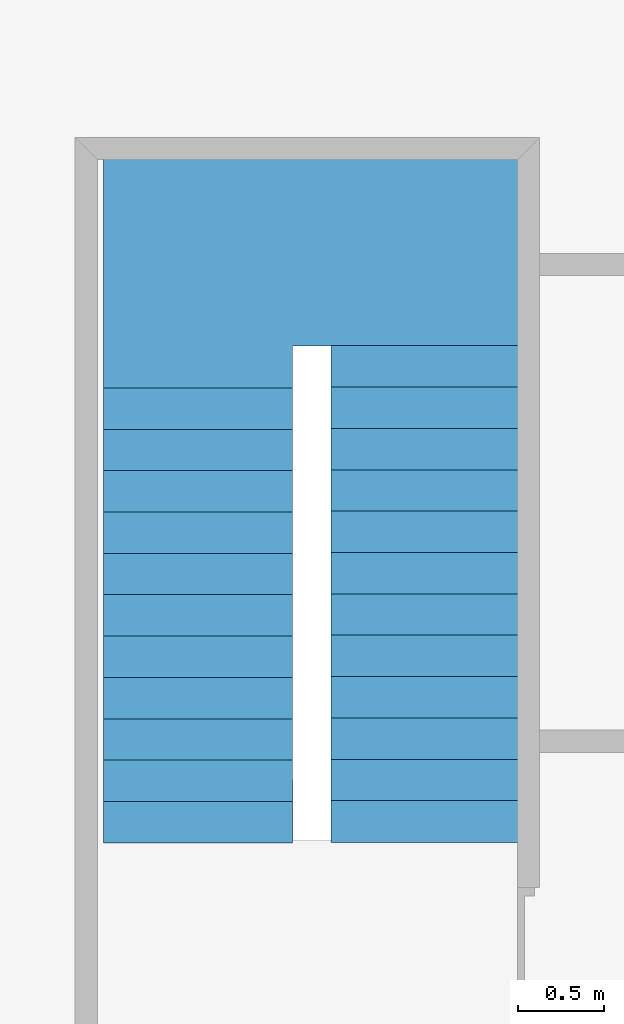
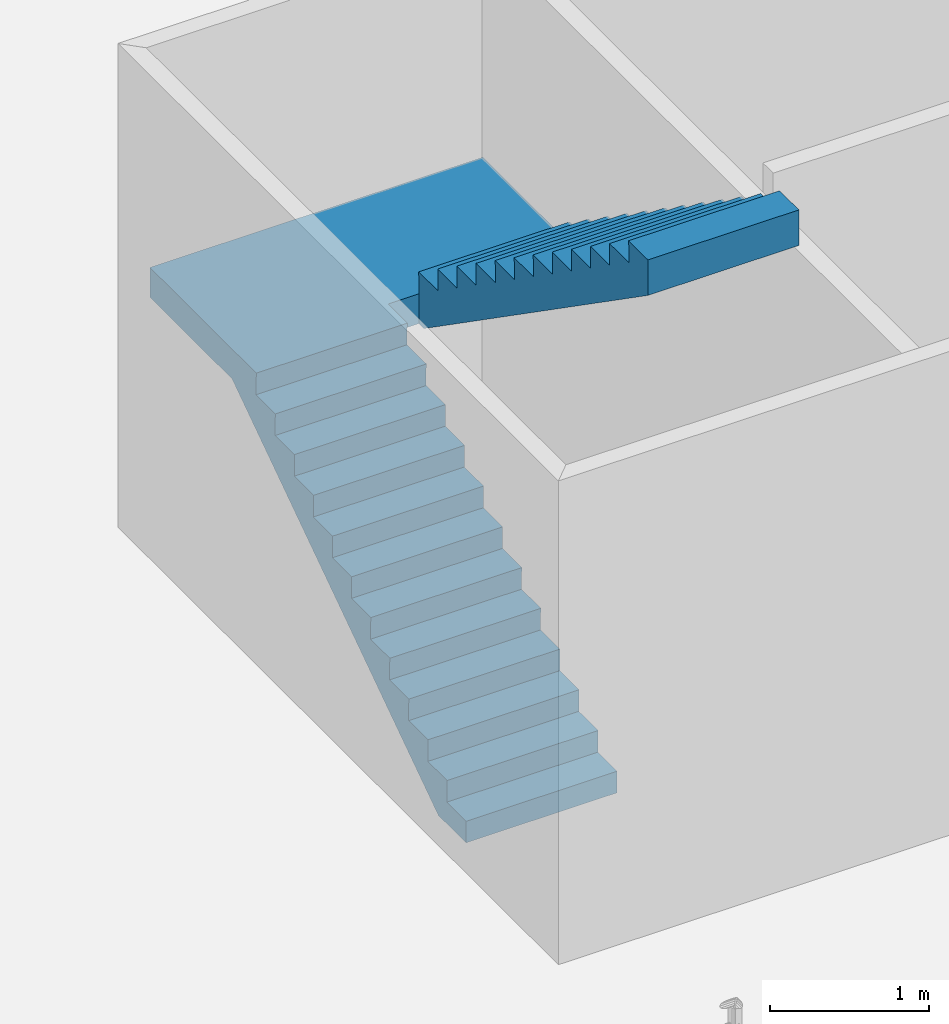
# One storey, part 13 of 17: 1 stair.
"""IFC2X3 building model written with IfcOpenShell, lengths in metres."""

from ifc_helpers import new_model, entity, si_unit, converted_unit, money_unit, direction, frame, origin_with_axes, place, context, subcontext, project, spatial, faceted_brep, material, element, save


model = new_model("IFC2X3")

# Units and contexts
model_context = context("Model", 3, precision=1e-05, world=origin_with_axes(), true_north=direction((0.0, 1.0)))
body_context = subcontext(model_context, "Body", "Model", "MODEL_VIEW")
ifc_project = project(units=[si_unit("LENGTHUNIT", "METRE"), si_unit("AREAUNIT", "SQUARE_METRE"), si_unit("VOLUMEUNIT", "CUBIC_METRE"), converted_unit("PLANEANGLEUNIT", "DEGREE", entity("IfcPlaneAngleMeasure", 0.0174532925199), si_unit("PLANEANGLEUNIT", "RADIAN"), dimensions=[0, 0, 0, 0, 0, 0, 0]), si_unit("SOLIDANGLEUNIT", "STERADIAN"), money_unit("EUR"), converted_unit("TIMEUNIT", "Year", entity("IfcTimeMeasure", 31556926.0), si_unit("TIMEUNIT", "SECOND"), dimensions=[0, 0, 0, 0, 0, 0, 0]), si_unit("MASSUNIT", "GRAM"), si_unit("THERMODYNAMICTEMPERATUREUNIT", "DEGREE_CELSIUS"), si_unit("LUMINOUSINTENSITYUNIT", "LUMEN")], contexts=[model_context])

# Site, building, storey
site_placement = place(None, origin_with_axes())
site = spatial("IfcSite", under=ifc_project, at=site_placement, Name="Undefined", CompositionType="ELEMENT")
building_placement = place(site_placement, origin_with_axes())
building = spatial("IfcBuilding", under=site, at=building_placement, Name="Undefined", CompositionType="ELEMENT")
storey_placement = place(building_placement, frame((0.0, 0.0, 9.425), z_axis=(0.0, 0.0, 1.0), x_axis=(1.0, 0.0, 0.0)))
storey = spatial("IfcBuildingStorey", under=building, at=storey_placement, Name="Mezzannine", CompositionType="ELEMENT", Elevation=9.425)

# Stair
ifc_material = material(Name="Concrete Block")
stair_placement = place(storey_placement, frame((47.25, 10.6363765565, 0.0), z_axis=(0.0, 0.0, 1.0), x_axis=(0.0, -1.0, 0.0)))
element("IfcStair", 1, at=stair_placement, inside=storey, material=ifc_material, Name="Stair_01", ObjectType="STAIR", ShapeType="NOTDEFINED", context=body_context, shape_type="Brep", body=[
    faceted_brep([(-0.349868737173, 0.0, 0.0), (-2.9514240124, 0.0, 1.7825), (-2.9514240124, 1.1, 1.7825), (-0.349868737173, 1.1, 0.0), (-0.02, 0.0, 0.0), (-0.02, 0.0, 0.137708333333), (-0.260718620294, 0.0, 0.137708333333), (-0.260718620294, 0.0, 0.305416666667), (-0.501437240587, 0.0, 0.305416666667), (-0.501437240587, 0.0, 0.473125), (-0.742155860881, 0.0, 0.473125), (-0.742155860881, 0.0, 0.640833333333), (-0.982874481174, 0.0, 0.640833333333), (-0.982874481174, 0.0, 0.808541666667), (-1.22359310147, 0.0, 0.808541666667), (-1.22359310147, 0.0, 0.97625), (-1.46431172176, 0.0, 0.97625), (-1.46431172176, 0.0, 1.14395833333), (-1.70503034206, 0.0, 1.14395833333), (-1.70503034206, 0.0, 1.31166666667), (-1.94574896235, 0.0, 1.31166666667), (-1.94574896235, 0.0, 1.479375), (-2.18646758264, 0.0, 1.479375), (-2.18646758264, 0.0, 1.64708333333), (-2.42718620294, 0.0, 1.64708333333), (-2.42718620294, 0.0, 1.81479166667), (-2.66790482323, 0.0, 1.81479166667), (-2.66790482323, 0.0, 1.9825), (-2.90862344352, 0.0, 1.9825), (-3.98862344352, 0.0, 1.9825), (-3.98862344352, 0.0, 1.7825), (-3.98862344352, 1.1, 1.7825), (-3.98862344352, 1.1, 1.9825), (-2.90862344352, 1.1, 1.9825), (-2.66790482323, 1.1, 1.9825), (-2.66790482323, 1.1, 1.81479166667), (-2.42718620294, 1.1, 1.81479166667), (-2.42718620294, 1.1, 1.64708333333), (-2.18646758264, 1.1, 1.64708333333), (-2.18646758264, 1.1, 1.479375), (-1.94574896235, 1.1, 1.479375), (-1.94574896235, 1.1, 1.31166666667), (-1.70503034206, 1.1, 1.31166666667), (-1.70503034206, 1.1, 1.14395833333), (-1.46431172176, 1.1, 1.14395833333), (-1.46431172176, 1.1, 0.97625), (-1.22359310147, 1.1, 0.97625), (-1.22359310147, 1.1, 0.808541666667), (-0.982874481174, 1.1, 0.808541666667), (-0.982874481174, 1.1, 0.640833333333), (-0.742155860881, 1.1, 0.640833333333), (-0.742155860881, 1.1, 0.473125), (-0.501437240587, 1.1, 0.473125), (-0.501437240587, 1.1, 0.305416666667), (-0.260718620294, 1.1, 0.305416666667), (-0.260718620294, 1.1, 0.137708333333), (-0.02, 1.1, 0.137708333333), (-0.02, 1.1, 0.0)], [[[0, 1, 2, 3]], [[0, 4, 5, 6, 7, 8, 9, 10, 11, 12, 13, 14, 15, 16, 17, 18, 19, 20, 21, 22, 23, 24, 25, 26, 27, 28, 29, 30, 1]], [[1, 30, 31, 2]], [[3, 2, 31, 32, 33, 34, 35, 36, 37, 38, 39, 40, 41, 42, 43, 44, 45, 46, 47, 48, 49, 50, 51, 52, 53, 54, 55, 56, 57]], [[4, 0, 3, 57]], [[5, 4, 57, 56]], [[6, 5, 56, 55]], [[7, 6, 55, 54]], [[8, 7, 54, 53]], [[9, 8, 53, 52]], [[10, 9, 52, 51]], [[11, 10, 51, 50]], [[12, 11, 50, 49]], [[13, 12, 49, 48]], [[14, 13, 48, 47]], [[15, 14, 47, 46]], [[16, 15, 46, 45]], [[17, 16, 45, 44]], [[18, 17, 44, 43]], [[19, 18, 43, 42]], [[20, 19, 42, 41]], [[21, 20, 41, 40]], [[22, 21, 40, 39]], [[23, 22, 39, 38]], [[24, 23, 38, 37]], [[25, 24, 37, 36]], [[26, 25, 36, 35]], [[27, 26, 35, 34]], [[28, 27, 34, 33]], [[29, 28, 33, 32]], [[30, 29, 32, 31]]]),
    faceted_brep([(-2.88862344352, 1.1, 1.9825), (-2.88862344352, 1.1, 1.7825), (-2.88862344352, 1.325, 1.7825), (-2.88862344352, 1.325, 1.9825), (-3.98862344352, 1.1, 1.9825), (-3.98862344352, 1.1, 1.7825), (-2.9514240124, 1.1, 1.7825), (-2.9514240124, 1.325, 1.7825), (-3.98862344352, 1.325, 1.7825), (-3.98862344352, 1.325, 1.9825)], [[[0, 1, 2, 3]], [[0, 4, 5, 6, 1]], [[1, 6, 7, 2]], [[3, 2, 7, 8, 9]], [[4, 0, 3, 9]], [[5, 4, 9, 8]], [[6, 5, 8, 7]]]),
    faceted_brep([(-2.88862344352, 1.325, 1.9825), (-2.88862344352, 1.325, 1.7825), (-2.88862344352, 2.425, 1.7825), (-2.88862344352, 2.425, 1.9825), (-3.98862344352, 1.325, 1.9825), (-3.98862344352, 1.325, 1.7825), (-3.98862344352, 2.425, 1.7825), (-3.98862344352, 2.425, 1.9825)], [[[0, 1, 2, 3]], [[0, 4, 5, 1]], [[1, 5, 6, 2]], [[3, 2, 6, 7]], [[4, 0, 3, 7]], [[5, 4, 7, 6]]]),
    faceted_brep([(-2.88862344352, 1.325, 1.7825), (-2.88862344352, 2.425, 1.7825), (-2.82582287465, 2.425, 1.7825), (-2.82582287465, 1.325, 1.7825), (-2.88862344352, 1.325, 1.9825), (-2.88862344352, 2.425, 1.9825), (-2.86862344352, 2.425, 1.9825), (-2.86862344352, 2.425, 2.15020833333), (-2.62790482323, 2.425, 2.15020833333), (-2.62790482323, 2.425, 2.31791666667), (-2.38718620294, 2.425, 2.31791666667), (-2.38718620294, 2.425, 2.485625), (-2.14646758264, 2.425, 2.485625), (-2.14646758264, 2.425, 2.65333333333), (-1.90574896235, 2.425, 2.65333333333), (-1.90574896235, 2.425, 2.82104166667), (-1.66503034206, 2.425, 2.82104166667), (-1.66503034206, 2.425, 2.98875), (-1.42431172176, 2.425, 2.98875), (-1.42431172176, 2.425, 3.15645833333), (-1.18359310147, 2.425, 3.15645833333), (-1.18359310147, 2.425, 3.32416666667), (-0.942874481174, 2.425, 3.32416666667), (-0.942874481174, 2.425, 3.491875), (-0.702155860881, 2.425, 3.491875), (-0.702155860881, 2.425, 3.65958333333), (-0.461437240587, 2.425, 3.65958333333), (-0.461437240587, 2.425, 3.82729166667), (-0.220718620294, 2.425, 3.82729166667), (-0.220718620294, 2.425, 3.995), (0.0, 2.425, 3.995), (0.0, 2.425, 3.75124692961), (0.0, 1.325, 3.75124692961), (0.0, 1.325, 3.995), (-0.220718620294, 1.325, 3.995), (-0.220718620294, 1.325, 3.82729166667), (-0.461437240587, 1.325, 3.82729166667), (-0.461437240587, 1.325, 3.65958333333), (-0.702155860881, 1.325, 3.65958333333), (-0.702155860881, 1.325, 3.491875), (-0.942874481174, 1.325, 3.491875), (-0.942874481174, 1.325, 3.32416666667), (-1.18359310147, 1.325, 3.32416666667), (-1.18359310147, 1.325, 3.15645833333), (-1.42431172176, 1.325, 3.15645833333), (-1.42431172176, 1.325, 2.98875), (-1.66503034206, 1.325, 2.98875), (-1.66503034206, 1.325, 2.82104166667), (-1.90574896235, 1.325, 2.82104166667), (-1.90574896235, 1.325, 2.65333333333), (-2.14646758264, 1.325, 2.65333333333), (-2.14646758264, 1.325, 2.485625), (-2.38718620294, 1.325, 2.485625), (-2.38718620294, 1.325, 2.31791666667), (-2.62790482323, 1.325, 2.31791666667), (-2.62790482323, 1.325, 2.15020833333), (-2.86862344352, 1.325, 2.15020833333), (-2.86862344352, 1.325, 1.9825)], [[[0, 1, 2, 3]], [[4, 5, 1, 0]], [[1, 5, 6, 7, 8, 9, 10, 11, 12, 13, 14, 15, 16, 17, 18, 19, 20, 21, 22, 23, 24, 25, 26, 27, 28, 29, 30, 31, 2]], [[3, 2, 31, 32]], [[0, 3, 32, 33, 34, 35, 36, 37, 38, 39, 40, 41, 42, 43, 44, 45, 46, 47, 48, 49, 50, 51, 52, 53, 54, 55, 56, 57, 4]], [[57, 6, 5, 4]], [[56, 7, 6, 57]], [[55, 8, 7, 56]], [[54, 9, 8, 55]], [[53, 10, 9, 54]], [[52, 11, 10, 53]], [[51, 12, 11, 52]], [[50, 13, 12, 51]], [[49, 14, 13, 50]], [[48, 15, 14, 49]], [[47, 16, 15, 48]], [[46, 17, 16, 47]], [[45, 18, 17, 46]], [[44, 19, 18, 45]], [[43, 20, 19, 44]], [[42, 21, 20, 43]], [[41, 22, 21, 42]], [[40, 23, 22, 41]], [[39, 24, 23, 40]], [[38, 25, 24, 39]], [[37, 26, 25, 38]], [[36, 27, 26, 37]], [[35, 28, 27, 36]], [[34, 29, 28, 35]], [[33, 30, 29, 34]], [[32, 31, 30, 33]]]),
    faceted_brep([(0.0, 0.0, 0.0), (-0.02, 0.0, 0.0), (-0.02, 1.1, 0.0), (0.0, 1.1, 0.0), (0.0, 0.0, 0.137708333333), (-0.02, 0.0, 0.137708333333), (-0.02, 1.1, 0.137708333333), (0.0, 1.1, 0.137708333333)], [[[0, 1, 2, 3]], [[0, 4, 5, 1]], [[1, 5, 6, 2]], [[3, 2, 6, 7]], [[4, 0, 3, 7]], [[5, 4, 7, 6]]]),
    faceted_brep([(-0.240718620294, 0.0, 0.167708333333), (-0.260718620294, 0.0, 0.167708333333), (-0.260718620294, 1.1, 0.167708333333), (-0.240718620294, 1.1, 0.167708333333), (-0.240718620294, 0.0, 0.305416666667), (-0.260718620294, 0.0, 0.305416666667), (-0.260718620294, 1.1, 0.305416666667), (-0.240718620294, 1.1, 0.305416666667)], [[[0, 1, 2, 3]], [[0, 4, 5, 1]], [[1, 5, 6, 2]], [[3, 2, 6, 7]], [[4, 0, 3, 7]], [[5, 4, 7, 6]]]),
    faceted_brep([(-0.481437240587, 0.0, 0.335416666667), (-0.501437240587, 0.0, 0.335416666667), (-0.501437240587, 1.1, 0.335416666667), (-0.481437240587, 1.1, 0.335416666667), (-0.481437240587, 0.0, 0.473125), (-0.501437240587, 0.0, 0.473125), (-0.501437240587, 1.1, 0.473125), (-0.481437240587, 1.1, 0.473125)], [[[0, 1, 2, 3]], [[0, 4, 5, 1]], [[1, 5, 6, 2]], [[3, 2, 6, 7]], [[4, 0, 3, 7]], [[5, 4, 7, 6]]]),
    faceted_brep([(-0.722155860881, 0.0, 0.503125), (-0.742155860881, 0.0, 0.503125), (-0.742155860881, 1.1, 0.503125), (-0.722155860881, 1.1, 0.503125), (-0.722155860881, 0.0, 0.640833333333), (-0.742155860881, 0.0, 0.640833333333), (-0.742155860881, 1.1, 0.640833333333), (-0.722155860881, 1.1, 0.640833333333)], [[[0, 1, 2, 3]], [[0, 4, 5, 1]], [[1, 5, 6, 2]], [[3, 2, 6, 7]], [[4, 0, 3, 7]], [[5, 4, 7, 6]]]),
    faceted_brep([(-0.962874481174, 0.0, 0.670833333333), (-0.982874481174, 0.0, 0.670833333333), (-0.982874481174, 1.1, 0.670833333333), (-0.962874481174, 1.1, 0.670833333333), (-0.962874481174, 0.0, 0.808541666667), (-0.982874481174, 0.0, 0.808541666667), (-0.982874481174, 1.1, 0.808541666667), (-0.962874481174, 1.1, 0.808541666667)], [[[0, 1, 2, 3]], [[0, 4, 5, 1]], [[1, 5, 6, 2]], [[3, 2, 6, 7]], [[4, 0, 3, 7]], [[5, 4, 7, 6]]]),
    faceted_brep([(-1.20359310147, 0.0, 0.838541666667), (-1.22359310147, 0.0, 0.838541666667), (-1.22359310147, 1.1, 0.838541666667), (-1.20359310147, 1.1, 0.838541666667), (-1.20359310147, 0.0, 0.97625), (-1.22359310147, 0.0, 0.97625), (-1.22359310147, 1.1, 0.97625), (-1.20359310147, 1.1, 0.97625)], [[[0, 1, 2, 3]], [[0, 4, 5, 1]], [[1, 5, 6, 2]], [[3, 2, 6, 7]], [[4, 0, 3, 7]], [[5, 4, 7, 6]]]),
    faceted_brep([(-1.44431172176, 0.0, 1.00625), (-1.46431172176, 0.0, 1.00625), (-1.46431172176, 1.1, 1.00625), (-1.44431172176, 1.1, 1.00625), (-1.44431172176, 0.0, 1.14395833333), (-1.46431172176, 0.0, 1.14395833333), (-1.46431172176, 1.1, 1.14395833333), (-1.44431172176, 1.1, 1.14395833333)], [[[0, 1, 2, 3]], [[0, 4, 5, 1]], [[1, 5, 6, 2]], [[3, 2, 6, 7]], [[4, 0, 3, 7]], [[5, 4, 7, 6]]]),
    faceted_brep([(-1.68503034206, 0.0, 1.17395833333), (-1.70503034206, 0.0, 1.17395833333), (-1.70503034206, 1.1, 1.17395833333), (-1.68503034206, 1.1, 1.17395833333), (-1.68503034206, 0.0, 1.31166666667), (-1.70503034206, 0.0, 1.31166666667), (-1.70503034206, 1.1, 1.31166666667), (-1.68503034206, 1.1, 1.31166666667)], [[[0, 1, 2, 3]], [[0, 4, 5, 1]], [[1, 5, 6, 2]], [[3, 2, 6, 7]], [[4, 0, 3, 7]], [[5, 4, 7, 6]]]),
    faceted_brep([(-1.92574896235, 0.0, 1.34166666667), (-1.94574896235, 0.0, 1.34166666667), (-1.94574896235, 1.1, 1.34166666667), (-1.92574896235, 1.1, 1.34166666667), (-1.92574896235, 0.0, 1.479375), (-1.94574896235, 0.0, 1.479375), (-1.94574896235, 1.1, 1.479375), (-1.92574896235, 1.1, 1.479375)], [[[0, 1, 2, 3]], [[0, 4, 5, 1]], [[1, 5, 6, 2]], [[3, 2, 6, 7]], [[4, 0, 3, 7]], [[5, 4, 7, 6]]]),
    faceted_brep([(-2.16646758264, 0.0, 1.509375), (-2.18646758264, 0.0, 1.509375), (-2.18646758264, 1.1, 1.509375), (-2.16646758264, 1.1, 1.509375), (-2.16646758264, 0.0, 1.64708333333), (-2.18646758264, 0.0, 1.64708333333), (-2.18646758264, 1.1, 1.64708333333), (-2.16646758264, 1.1, 1.64708333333)], [[[0, 1, 2, 3]], [[0, 4, 5, 1]], [[1, 5, 6, 2]], [[3, 2, 6, 7]], [[4, 0, 3, 7]], [[5, 4, 7, 6]]]),
    faceted_brep([(-2.40718620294, 0.0, 1.67708333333), (-2.42718620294, 0.0, 1.67708333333), (-2.42718620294, 1.1, 1.67708333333), (-2.40718620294, 1.1, 1.67708333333), (-2.40718620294, 0.0, 1.81479166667), (-2.42718620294, 0.0, 1.81479166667), (-2.42718620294, 1.1, 1.81479166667), (-2.40718620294, 1.1, 1.81479166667)], [[[0, 1, 2, 3]], [[0, 4, 5, 1]], [[1, 5, 6, 2]], [[3, 2, 6, 7]], [[4, 0, 3, 7]], [[5, 4, 7, 6]]]),
    faceted_brep([(-2.64790482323, 0.0, 1.84479166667), (-2.66790482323, 0.0, 1.84479166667), (-2.66790482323, 1.1, 1.84479166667), (-2.64790482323, 1.1, 1.84479166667), (-2.64790482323, 0.0, 1.9825), (-2.66790482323, 0.0, 1.9825), (-2.66790482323, 1.1, 1.9825), (-2.64790482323, 1.1, 1.9825)], [[[0, 1, 2, 3]], [[0, 4, 5, 1]], [[1, 5, 6, 2]], [[3, 2, 6, 7]], [[4, 0, 3, 7]], [[5, 4, 7, 6]]]),
    faceted_brep([(-2.88862344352, 1.325, 2.0125), (-2.88862344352, 2.425, 2.0125), (-2.86862344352, 2.425, 2.0125), (-2.86862344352, 1.325, 2.0125), (-2.88862344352, 1.325, 2.15020833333), (-2.88862344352, 2.425, 2.15020833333), (-2.86862344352, 2.425, 2.15020833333), (-2.86862344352, 1.325, 2.15020833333)], [[[0, 1, 2, 3]], [[4, 5, 1, 0]], [[1, 5, 6, 2]], [[3, 2, 6, 7]], [[0, 3, 7, 4]], [[7, 6, 5, 4]]]),
    faceted_brep([(-2.64790482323, 1.325, 2.18020833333), (-2.64790482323, 2.425, 2.18020833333), (-2.62790482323, 2.425, 2.18020833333), (-2.62790482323, 1.325, 2.18020833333), (-2.64790482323, 1.325, 2.31791666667), (-2.64790482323, 2.425, 2.31791666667), (-2.62790482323, 2.425, 2.31791666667), (-2.62790482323, 1.325, 2.31791666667)], [[[0, 1, 2, 3]], [[4, 5, 1, 0]], [[1, 5, 6, 2]], [[3, 2, 6, 7]], [[0, 3, 7, 4]], [[7, 6, 5, 4]]]),
    faceted_brep([(-2.40718620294, 1.325, 2.34791666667), (-2.40718620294, 2.425, 2.34791666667), (-2.38718620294, 2.425, 2.34791666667), (-2.38718620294, 1.325, 2.34791666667), (-2.40718620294, 1.325, 2.485625), (-2.40718620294, 2.425, 2.485625), (-2.38718620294, 2.425, 2.485625), (-2.38718620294, 1.325, 2.485625)], [[[0, 1, 2, 3]], [[4, 5, 1, 0]], [[1, 5, 6, 2]], [[3, 2, 6, 7]], [[0, 3, 7, 4]], [[7, 6, 5, 4]]]),
    faceted_brep([(-2.16646758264, 1.325, 2.515625), (-2.16646758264, 2.425, 2.515625), (-2.14646758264, 2.425, 2.515625), (-2.14646758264, 1.325, 2.515625), (-2.16646758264, 1.325, 2.65333333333), (-2.16646758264, 2.425, 2.65333333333), (-2.14646758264, 2.425, 2.65333333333), (-2.14646758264, 1.325, 2.65333333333)], [[[0, 1, 2, 3]], [[4, 5, 1, 0]], [[1, 5, 6, 2]], [[3, 2, 6, 7]], [[0, 3, 7, 4]], [[7, 6, 5, 4]]]),
    faceted_brep([(-1.92574896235, 1.325, 2.68333333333), (-1.92574896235, 2.425, 2.68333333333), (-1.90574896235, 2.425, 2.68333333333), (-1.90574896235, 1.325, 2.68333333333), (-1.92574896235, 1.325, 2.82104166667), (-1.92574896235, 2.425, 2.82104166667), (-1.90574896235, 2.425, 2.82104166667), (-1.90574896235, 1.325, 2.82104166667)], [[[0, 1, 2, 3]], [[4, 5, 1, 0]], [[1, 5, 6, 2]], [[3, 2, 6, 7]], [[0, 3, 7, 4]], [[7, 6, 5, 4]]]),
    faceted_brep([(-1.68503034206, 1.325, 2.85104166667), (-1.68503034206, 2.425, 2.85104166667), (-1.66503034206, 2.425, 2.85104166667), (-1.66503034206, 1.325, 2.85104166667), (-1.68503034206, 1.325, 2.98875), (-1.68503034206, 2.425, 2.98875), (-1.66503034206, 2.425, 2.98875), (-1.66503034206, 1.325, 2.98875)], [[[0, 1, 2, 3]], [[4, 5, 1, 0]], [[1, 5, 6, 2]], [[3, 2, 6, 7]], [[0, 3, 7, 4]], [[7, 6, 5, 4]]]),
    faceted_brep([(-1.44431172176, 1.325, 3.01875), (-1.44431172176, 2.425, 3.01875), (-1.42431172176, 2.425, 3.01875), (-1.42431172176, 1.325, 3.01875), (-1.44431172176, 1.325, 3.15645833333), (-1.44431172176, 2.425, 3.15645833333), (-1.42431172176, 2.425, 3.15645833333), (-1.42431172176, 1.325, 3.15645833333)], [[[0, 1, 2, 3]], [[4, 5, 1, 0]], [[1, 5, 6, 2]], [[3, 2, 6, 7]], [[0, 3, 7, 4]], [[7, 6, 5, 4]]]),
    faceted_brep([(-1.20359310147, 1.325, 3.18645833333), (-1.20359310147, 2.425, 3.18645833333), (-1.18359310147, 2.425, 3.18645833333), (-1.18359310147, 1.325, 3.18645833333), (-1.20359310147, 1.325, 3.32416666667), (-1.20359310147, 2.425, 3.32416666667), (-1.18359310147, 2.425, 3.32416666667), (-1.18359310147, 1.325, 3.32416666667)], [[[0, 1, 2, 3]], [[4, 5, 1, 0]], [[1, 5, 6, 2]], [[3, 2, 6, 7]], [[0, 3, 7, 4]], [[7, 6, 5, 4]]]),
    faceted_brep([(-0.962874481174, 1.325, 3.35416666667), (-0.962874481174, 2.425, 3.35416666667), (-0.942874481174, 2.425, 3.35416666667), (-0.942874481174, 1.325, 3.35416666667), (-0.962874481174, 1.325, 3.491875), (-0.962874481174, 2.425, 3.491875), (-0.942874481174, 2.425, 3.491875), (-0.942874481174, 1.325, 3.491875)], [[[0, 1, 2, 3]], [[4, 5, 1, 0]], [[1, 5, 6, 2]], [[3, 2, 6, 7]], [[0, 3, 7, 4]], [[7, 6, 5, 4]]]),
    faceted_brep([(-0.722155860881, 1.325, 3.521875), (-0.722155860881, 2.425, 3.521875), (-0.702155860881, 2.425, 3.521875), (-0.702155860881, 1.325, 3.521875), (-0.722155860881, 1.325, 3.65958333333), (-0.722155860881, 2.425, 3.65958333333), (-0.702155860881, 2.425, 3.65958333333), (-0.702155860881, 1.325, 3.65958333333)], [[[0, 1, 2, 3]], [[4, 5, 1, 0]], [[1, 5, 6, 2]], [[3, 2, 6, 7]], [[0, 3, 7, 4]], [[7, 6, 5, 4]]]),
    faceted_brep([(-0.481437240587, 1.325, 3.68958333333), (-0.481437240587, 2.425, 3.68958333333), (-0.461437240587, 2.425, 3.68958333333), (-0.461437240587, 1.325, 3.68958333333), (-0.481437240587, 1.325, 3.82729166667), (-0.481437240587, 2.425, 3.82729166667), (-0.461437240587, 2.425, 3.82729166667), (-0.461437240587, 1.325, 3.82729166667)], [[[0, 1, 2, 3]], [[4, 5, 1, 0]], [[1, 5, 6, 2]], [[3, 2, 6, 7]], [[0, 3, 7, 4]], [[7, 6, 5, 4]]]),
    faceted_brep([(-0.240718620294, 1.325, 3.85729166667), (-0.240718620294, 2.425, 3.85729166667), (-0.220718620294, 2.425, 3.85729166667), (-0.220718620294, 1.325, 3.85729166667), (-0.240718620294, 1.325, 3.995), (-0.240718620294, 2.425, 3.995), (-0.220718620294, 2.425, 3.995), (-0.220718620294, 1.325, 3.995)], [[[0, 1, 2, 3]], [[4, 5, 1, 0]], [[1, 5, 6, 2]], [[3, 2, 6, 7]], [[0, 3, 7, 4]], [[7, 6, 5, 4]]]),
    faceted_brep([(0.0025, 0.0, 0.137708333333), (-0.260718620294, 0.0, 0.137708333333), (-0.260718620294, 1.1, 0.137708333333), (0.0025, 1.1, 0.137708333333), (0.0025, 0.0, 0.167708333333), (-0.260718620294, 0.0, 0.167708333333), (-0.260718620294, 1.1, 0.167708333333), (0.0025, 1.1, 0.167708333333)], [[[0, 1, 2, 3]], [[0, 4, 5, 1]], [[1, 5, 6, 2]], [[3, 2, 6, 7]], [[4, 0, 3, 7]], [[5, 4, 7, 6]]]),
    faceted_brep([(-0.238218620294, 0.0, 0.305416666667), (-0.501437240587, 0.0, 0.305416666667), (-0.501437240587, 1.1, 0.305416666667), (-0.238218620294, 1.1, 0.305416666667), (-0.238218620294, 0.0, 0.335416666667), (-0.501437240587, 0.0, 0.335416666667), (-0.501437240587, 1.1, 0.335416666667), (-0.238218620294, 1.1, 0.335416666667)], [[[0, 1, 2, 3]], [[0, 4, 5, 1]], [[1, 5, 6, 2]], [[3, 2, 6, 7]], [[4, 0, 3, 7]], [[5, 4, 7, 6]]]),
    faceted_brep([(-0.478937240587, 0.0, 0.473125), (-0.742155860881, 0.0, 0.473125), (-0.742155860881, 1.1, 0.473125), (-0.478937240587, 1.1, 0.473125), (-0.478937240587, 0.0, 0.503125), (-0.742155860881, 0.0, 0.503125), (-0.742155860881, 1.1, 0.503125), (-0.478937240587, 1.1, 0.503125)], [[[0, 1, 2, 3]], [[0, 4, 5, 1]], [[1, 5, 6, 2]], [[3, 2, 6, 7]], [[4, 0, 3, 7]], [[5, 4, 7, 6]]]),
    faceted_brep([(-0.719655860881, 0.0, 0.640833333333), (-0.982874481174, 0.0, 0.640833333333), (-0.982874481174, 1.1, 0.640833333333), (-0.719655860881, 1.1, 0.640833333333), (-0.719655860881, 0.0, 0.670833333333), (-0.982874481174, 0.0, 0.670833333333), (-0.982874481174, 1.1, 0.670833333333), (-0.719655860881, 1.1, 0.670833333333)], [[[0, 1, 2, 3]], [[0, 4, 5, 1]], [[1, 5, 6, 2]], [[3, 2, 6, 7]], [[4, 0, 3, 7]], [[5, 4, 7, 6]]]),
    faceted_brep([(-0.960374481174, 0.0, 0.808541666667), (-1.22359310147, 0.0, 0.808541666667), (-1.22359310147, 1.1, 0.808541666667), (-0.960374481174, 1.1, 0.808541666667), (-0.960374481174, 0.0, 0.838541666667), (-1.22359310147, 0.0, 0.838541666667), (-1.22359310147, 1.1, 0.838541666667), (-0.960374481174, 1.1, 0.838541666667)], [[[0, 1, 2, 3]], [[0, 4, 5, 1]], [[1, 5, 6, 2]], [[3, 2, 6, 7]], [[4, 0, 3, 7]], [[5, 4, 7, 6]]]),
    faceted_brep([(-1.20109310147, 0.0, 0.97625), (-1.46431172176, 0.0, 0.97625), (-1.46431172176, 1.1, 0.97625), (-1.20109310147, 1.1, 0.97625), (-1.20109310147, 0.0, 1.00625), (-1.46431172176, 0.0, 1.00625), (-1.46431172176, 1.1, 1.00625), (-1.20109310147, 1.1, 1.00625)], [[[0, 1, 2, 3]], [[0, 4, 5, 1]], [[1, 5, 6, 2]], [[3, 2, 6, 7]], [[4, 0, 3, 7]], [[5, 4, 7, 6]]]),
    faceted_brep([(-1.44181172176, 0.0, 1.14395833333), (-1.70503034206, 0.0, 1.14395833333), (-1.70503034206, 1.1, 1.14395833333), (-1.44181172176, 1.1, 1.14395833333), (-1.44181172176, 0.0, 1.17395833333), (-1.70503034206, 0.0, 1.17395833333), (-1.70503034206, 1.1, 1.17395833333), (-1.44181172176, 1.1, 1.17395833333)], [[[0, 1, 2, 3]], [[0, 4, 5, 1]], [[1, 5, 6, 2]], [[3, 2, 6, 7]], [[4, 0, 3, 7]], [[5, 4, 7, 6]]]),
    faceted_brep([(-1.68253034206, 0.0, 1.31166666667), (-1.94574896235, 0.0, 1.31166666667), (-1.94574896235, 1.1, 1.31166666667), (-1.68253034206, 1.1, 1.31166666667), (-1.68253034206, 0.0, 1.34166666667), (-1.94574896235, 0.0, 1.34166666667), (-1.94574896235, 1.1, 1.34166666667), (-1.68253034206, 1.1, 1.34166666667)], [[[0, 1, 2, 3]], [[0, 4, 5, 1]], [[1, 5, 6, 2]], [[3, 2, 6, 7]], [[4, 0, 3, 7]], [[5, 4, 7, 6]]]),
    faceted_brep([(-1.92324896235, 0.0, 1.479375), (-2.18646758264, 0.0, 1.479375), (-2.18646758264, 1.1, 1.479375), (-1.92324896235, 1.1, 1.479375), (-1.92324896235, 0.0, 1.509375), (-2.18646758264, 0.0, 1.509375), (-2.18646758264, 1.1, 1.509375), (-1.92324896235, 1.1, 1.509375)], [[[0, 1, 2, 3]], [[0, 4, 5, 1]], [[1, 5, 6, 2]], [[3, 2, 6, 7]], [[4, 0, 3, 7]], [[5, 4, 7, 6]]]),
    faceted_brep([(-2.16396758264, 0.0, 1.64708333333), (-2.42718620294, 0.0, 1.64708333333), (-2.42718620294, 1.1, 1.64708333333), (-2.16396758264, 1.1, 1.64708333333), (-2.16396758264, 0.0, 1.67708333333), (-2.42718620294, 0.0, 1.67708333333), (-2.42718620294, 1.1, 1.67708333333), (-2.16396758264, 1.1, 1.67708333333)], [[[0, 1, 2, 3]], [[0, 4, 5, 1]], [[1, 5, 6, 2]], [[3, 2, 6, 7]], [[4, 0, 3, 7]], [[5, 4, 7, 6]]]),
    faceted_brep([(-2.40468620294, 0.0, 1.81479166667), (-2.66790482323, 0.0, 1.81479166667), (-2.66790482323, 1.1, 1.81479166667), (-2.40468620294, 1.1, 1.81479166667), (-2.40468620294, 0.0, 1.84479166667), (-2.66790482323, 0.0, 1.84479166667), (-2.66790482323, 1.1, 1.84479166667), (-2.40468620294, 1.1, 1.84479166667)], [[[0, 1, 2, 3]], [[0, 4, 5, 1]], [[1, 5, 6, 2]], [[3, 2, 6, 7]], [[4, 0, 3, 7]], [[5, 4, 7, 6]]]),
    faceted_brep([(-2.64540482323, 0.0, 1.9825), (-2.88862344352, 0.0, 1.9825), (-2.88862344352, 1.1, 1.9825), (-2.64540482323, 1.1, 1.9825), (-2.64540482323, 0.0, 2.0125), (-2.88862344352, 0.0, 2.0125), (-2.88862344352, 1.1, 2.0125), (-2.64540482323, 1.1, 2.0125)], [[[0, 1, 2, 3]], [[0, 4, 5, 1]], [[1, 5, 6, 2]], [[3, 2, 6, 7]], [[4, 0, 3, 7]], [[5, 4, 7, 6]]]),
    faceted_brep([(-3.98862344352, 0.0, 1.9825), (-3.98862344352, 0.0, 2.0125), (-3.98862344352, 1.325, 2.0125), (-3.98862344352, 1.325, 1.9825), (-2.88862344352, 0.0, 1.9825), (-2.88862344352, 0.0, 2.0125), (-2.88862344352, 1.325, 2.0125), (-2.88862344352, 1.325, 1.9825)], [[[0, 1, 2, 3]], [[0, 4, 5, 1]], [[1, 5, 6, 2]], [[3, 2, 6, 7]], [[4, 0, 3, 7]], [[5, 4, 7, 6]]]),
    faceted_brep([(-3.98862344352, 1.325, 1.9825), (-3.98862344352, 1.325, 2.0125), (-3.98862344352, 2.425, 2.0125), (-3.98862344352, 2.425, 1.9825), (-2.86862344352, 1.325, 1.9825), (-2.86862344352, 1.325, 2.0125), (-2.86862344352, 2.425, 2.0125), (-2.86862344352, 2.425, 1.9825)], [[[0, 1, 2, 3]], [[0, 4, 5, 1]], [[1, 5, 6, 2]], [[3, 2, 6, 7]], [[4, 0, 3, 7]], [[5, 4, 7, 6]]]),
    faceted_brep([(-2.89112344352, 1.325, 2.15020833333), (-2.89112344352, 2.425, 2.15020833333), (-2.62790482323, 2.425, 2.15020833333), (-2.62790482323, 1.325, 2.15020833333), (-2.89112344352, 1.325, 2.18020833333), (-2.89112344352, 2.425, 2.18020833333), (-2.62790482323, 2.425, 2.18020833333), (-2.62790482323, 1.325, 2.18020833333)], [[[0, 1, 2, 3]], [[4, 5, 1, 0]], [[1, 5, 6, 2]], [[3, 2, 6, 7]], [[0, 3, 7, 4]], [[7, 6, 5, 4]]]),
    faceted_brep([(-2.65040482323, 1.325, 2.31791666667), (-2.65040482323, 2.425, 2.31791666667), (-2.38718620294, 2.425, 2.31791666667), (-2.38718620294, 1.325, 2.31791666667), (-2.65040482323, 1.325, 2.34791666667), (-2.65040482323, 2.425, 2.34791666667), (-2.38718620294, 2.425, 2.34791666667), (-2.38718620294, 1.325, 2.34791666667)], [[[0, 1, 2, 3]], [[4, 5, 1, 0]], [[1, 5, 6, 2]], [[3, 2, 6, 7]], [[0, 3, 7, 4]], [[7, 6, 5, 4]]]),
    faceted_brep([(-2.40968620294, 1.325, 2.485625), (-2.40968620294, 2.425, 2.485625), (-2.14646758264, 2.425, 2.485625), (-2.14646758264, 1.325, 2.485625), (-2.40968620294, 1.325, 2.515625), (-2.40968620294, 2.425, 2.515625), (-2.14646758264, 2.425, 2.515625), (-2.14646758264, 1.325, 2.515625)], [[[0, 1, 2, 3]], [[4, 5, 1, 0]], [[1, 5, 6, 2]], [[3, 2, 6, 7]], [[0, 3, 7, 4]], [[7, 6, 5, 4]]]),
    faceted_brep([(-2.16896758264, 1.325, 2.65333333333), (-2.16896758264, 2.425, 2.65333333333), (-1.90574896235, 2.425, 2.65333333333), (-1.90574896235, 1.325, 2.65333333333), (-2.16896758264, 1.325, 2.68333333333), (-2.16896758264, 2.425, 2.68333333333), (-1.90574896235, 2.425, 2.68333333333), (-1.90574896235, 1.325, 2.68333333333)], [[[0, 1, 2, 3]], [[4, 5, 1, 0]], [[1, 5, 6, 2]], [[3, 2, 6, 7]], [[0, 3, 7, 4]], [[7, 6, 5, 4]]]),
    faceted_brep([(-1.92824896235, 1.325, 2.82104166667), (-1.92824896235, 2.425, 2.82104166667), (-1.66503034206, 2.425, 2.82104166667), (-1.66503034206, 1.325, 2.82104166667), (-1.92824896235, 1.325, 2.85104166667), (-1.92824896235, 2.425, 2.85104166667), (-1.66503034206, 2.425, 2.85104166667), (-1.66503034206, 1.325, 2.85104166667)], [[[0, 1, 2, 3]], [[4, 5, 1, 0]], [[1, 5, 6, 2]], [[3, 2, 6, 7]], [[0, 3, 7, 4]], [[7, 6, 5, 4]]]),
    faceted_brep([(-1.68753034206, 1.325, 2.98875), (-1.68753034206, 2.425, 2.98875), (-1.42431172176, 2.425, 2.98875), (-1.42431172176, 1.325, 2.98875), (-1.68753034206, 1.325, 3.01875), (-1.68753034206, 2.425, 3.01875), (-1.42431172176, 2.425, 3.01875), (-1.42431172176, 1.325, 3.01875)], [[[0, 1, 2, 3]], [[4, 5, 1, 0]], [[1, 5, 6, 2]], [[3, 2, 6, 7]], [[0, 3, 7, 4]], [[7, 6, 5, 4]]]),
    faceted_brep([(-1.44681172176, 1.325, 3.15645833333), (-1.44681172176, 2.425, 3.15645833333), (-1.18359310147, 2.425, 3.15645833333), (-1.18359310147, 1.325, 3.15645833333), (-1.44681172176, 1.325, 3.18645833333), (-1.44681172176, 2.425, 3.18645833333), (-1.18359310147, 2.425, 3.18645833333), (-1.18359310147, 1.325, 3.18645833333)], [[[0, 1, 2, 3]], [[4, 5, 1, 0]], [[1, 5, 6, 2]], [[3, 2, 6, 7]], [[0, 3, 7, 4]], [[7, 6, 5, 4]]]),
    faceted_brep([(-1.20609310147, 1.325, 3.32416666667), (-1.20609310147, 2.425, 3.32416666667), (-0.942874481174, 2.425, 3.32416666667), (-0.942874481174, 1.325, 3.32416666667), (-1.20609310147, 1.325, 3.35416666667), (-1.20609310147, 2.425, 3.35416666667), (-0.942874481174, 2.425, 3.35416666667), (-0.942874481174, 1.325, 3.35416666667)], [[[0, 1, 2, 3]], [[4, 5, 1, 0]], [[1, 5, 6, 2]], [[3, 2, 6, 7]], [[0, 3, 7, 4]], [[7, 6, 5, 4]]]),
    faceted_brep([(-0.965374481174, 1.325, 3.491875), (-0.965374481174, 2.425, 3.491875), (-0.702155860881, 2.425, 3.491875), (-0.702155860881, 1.325, 3.491875), (-0.965374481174, 1.325, 3.521875), (-0.965374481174, 2.425, 3.521875), (-0.702155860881, 2.425, 3.521875), (-0.702155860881, 1.325, 3.521875)], [[[0, 1, 2, 3]], [[4, 5, 1, 0]], [[1, 5, 6, 2]], [[3, 2, 6, 7]], [[0, 3, 7, 4]], [[7, 6, 5, 4]]]),
    faceted_brep([(-0.724655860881, 1.325, 3.65958333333), (-0.724655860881, 2.425, 3.65958333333), (-0.461437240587, 2.425, 3.65958333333), (-0.461437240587, 1.325, 3.65958333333), (-0.724655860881, 1.325, 3.68958333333), (-0.724655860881, 2.425, 3.68958333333), (-0.461437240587, 2.425, 3.68958333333), (-0.461437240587, 1.325, 3.68958333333)], [[[0, 1, 2, 3]], [[4, 5, 1, 0]], [[1, 5, 6, 2]], [[3, 2, 6, 7]], [[0, 3, 7, 4]], [[7, 6, 5, 4]]]),
    faceted_brep([(-0.483937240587, 1.325, 3.82729166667), (-0.483937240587, 2.425, 3.82729166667), (-0.220718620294, 2.425, 3.82729166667), (-0.220718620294, 1.325, 3.82729166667), (-0.483937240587, 1.325, 3.85729166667), (-0.483937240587, 2.425, 3.85729166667), (-0.220718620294, 2.425, 3.85729166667), (-0.220718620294, 1.325, 3.85729166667)], [[[0, 1, 2, 3]], [[4, 5, 1, 0]], [[1, 5, 6, 2]], [[3, 2, 6, 7]], [[0, 3, 7, 4]], [[7, 6, 5, 4]]]),
    faceted_brep([(-0.243218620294, 1.325, 3.995), (-0.243218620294, 2.425, 3.995), (0.0, 2.425, 3.995), (0.0, 1.325, 3.995), (-0.243218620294, 1.325, 4.025), (-0.243218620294, 2.425, 4.025), (0.0, 2.425, 4.025), (0.0, 1.325, 4.025)], [[[0, 1, 2, 3]], [[4, 5, 1, 0]], [[1, 5, 6, 2]], [[3, 2, 6, 7]], [[0, 3, 7, 4]], [[7, 6, 5, 4]]]),
])

save(model, "model.ifc")
